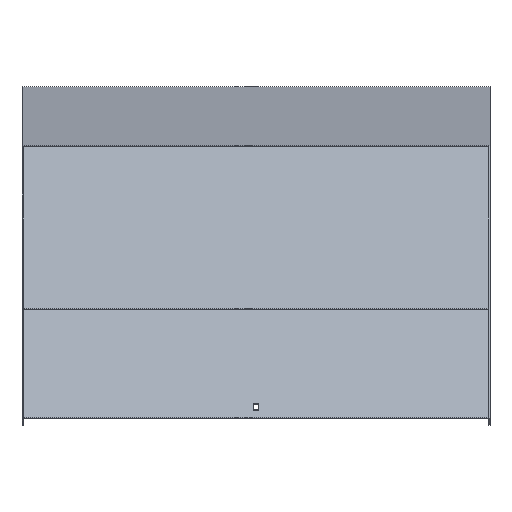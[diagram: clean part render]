
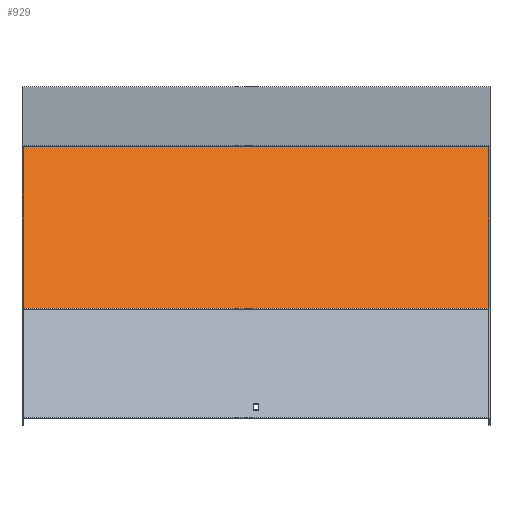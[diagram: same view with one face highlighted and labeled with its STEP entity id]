
A CAD part, top view. The second image highlights one B-rep face of the part: STEP entity #929.
In plain terms, the highlighted planar face has unit normal (0, 0.707, 0.707).
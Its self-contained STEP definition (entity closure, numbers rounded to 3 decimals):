
#61 = EDGE_CURVE ( 'NONE', #791, #240, #573, .T. ) ;
#86 = ORIENTED_EDGE ( 'NONE', *, *, #205, .F. ) ;
#116 = DIRECTION ( 'NONE',  ( 0., 0.707, -0.707 ) ) ;
#120 = VECTOR ( 'NONE', #178, 1000. ) ;
#178 = DIRECTION ( 'NONE',  ( -1., 0., 0. ) ) ;
#205 = EDGE_CURVE ( 'NONE', #240, #541, #209, .T. ) ;
#209 = LINE ( 'NONE', #967, #307 ) ;
#227 = CARTESIAN_POINT ( 'NONE',  ( 301.5, -266.872, 659.51 ) ) ;
#240 = VERTEX_POINT ( 'NONE', #227 ) ;
#266 = FACE_OUTER_BOUND ( 'NONE', #835, .T. ) ;
#307 = VECTOR ( 'NONE', #830, 1000. ) ;
#341 = LINE ( 'NONE', #474, #672 ) ;
#389 = VERTEX_POINT ( 'NONE', #832 ) ;
#448 = DIRECTION ( 'NONE',  ( 0., -0.707, -0.707 ) ) ;
#474 = CARTESIAN_POINT ( 'NONE',  ( -301.5, -60.657, 453.295 ) ) ;
#514 = EDGE_CURVE ( 'NONE', #389, #541, #341, .T. ) ;
#537 = DIRECTION ( 'NONE',  ( 0., -0.707, 0.707 ) ) ;
#541 = VERTEX_POINT ( 'NONE', #876 ) ;
#552 = ORIENTED_EDGE ( 'NONE', *, *, #61, .F. ) ;
#571 = CARTESIAN_POINT ( 'NONE',  ( 301.5, -56.867, 449.505 ) ) ;
#573 = LINE ( 'NONE', #928, #838 ) ;
#644 = EDGE_CURVE ( 'NONE', #791, #389, #937, .T. ) ;
#672 = VECTOR ( 'NONE', #537, 1000. ) ;
#736 = CARTESIAN_POINT ( 'NONE',  ( 301.5, -56.867, 449.505 ) ) ;
#791 = VERTEX_POINT ( 'NONE', #736 ) ;
#813 = CARTESIAN_POINT ( 'NONE',  ( 301.5, -60.657, 453.295 ) ) ;
#824 = PLANE ( 'NONE',  #964 ) ;
#830 = DIRECTION ( 'NONE',  ( -1., 0., 0. ) ) ;
#832 = CARTESIAN_POINT ( 'NONE',  ( -301.5, -56.867, 449.505 ) ) ;
#835 = EDGE_LOOP ( 'NONE', ( #936, #86, #552, #931 ) ) ;
#838 = VECTOR ( 'NONE', #870, 1000. ) ;
#870 = DIRECTION ( 'NONE',  ( 0., -0.707, 0.707 ) ) ;
#876 = CARTESIAN_POINT ( 'NONE',  ( -301.5, -266.872, 659.51 ) ) ;
#928 = CARTESIAN_POINT ( 'NONE',  ( 301.5, -60.657, 453.295 ) ) ;
#929 = ADVANCED_FACE ( 'NONE', ( #266 ), #824, .F. ) ;
#931 = ORIENTED_EDGE ( 'NONE', *, *, #644, .T. ) ;
#936 = ORIENTED_EDGE ( 'NONE', *, *, #514, .T. ) ;
#937 = LINE ( 'NONE', #571, #120 ) ;
#964 = AXIS2_PLACEMENT_3D ( 'NONE', #813, #448, #116 ) ;
#967 = CARTESIAN_POINT ( 'NONE',  ( 301.5, -266.872, 659.51 ) ) ;
